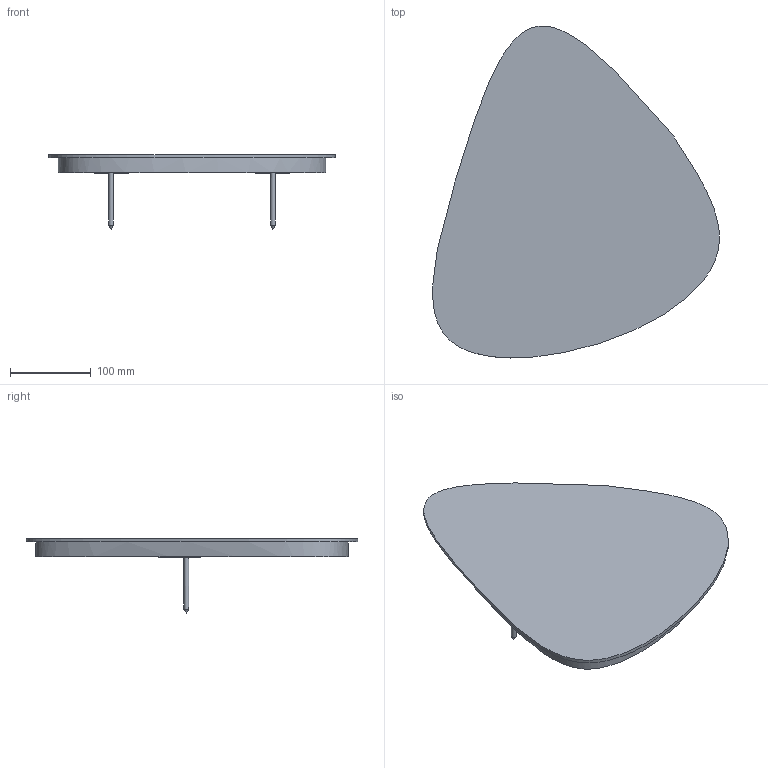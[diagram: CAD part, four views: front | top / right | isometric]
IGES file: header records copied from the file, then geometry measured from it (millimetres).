
Global section: file name: 3D Dosyası,; native system: Autodesk Inventor 2024; preprocessor: unknown; author: MSI; date: 20250904.095535; units: millimetre
Bounding box: 354.37 x 410.04 x 92 mm (x, y, z)
Volume: 1995335 mm3; surface area: 419725.6 mm2
Topology: 6 solids, 6 shells, 204 faces, 540 edges, 342 vertices
Faces by surface type: bspline 204
